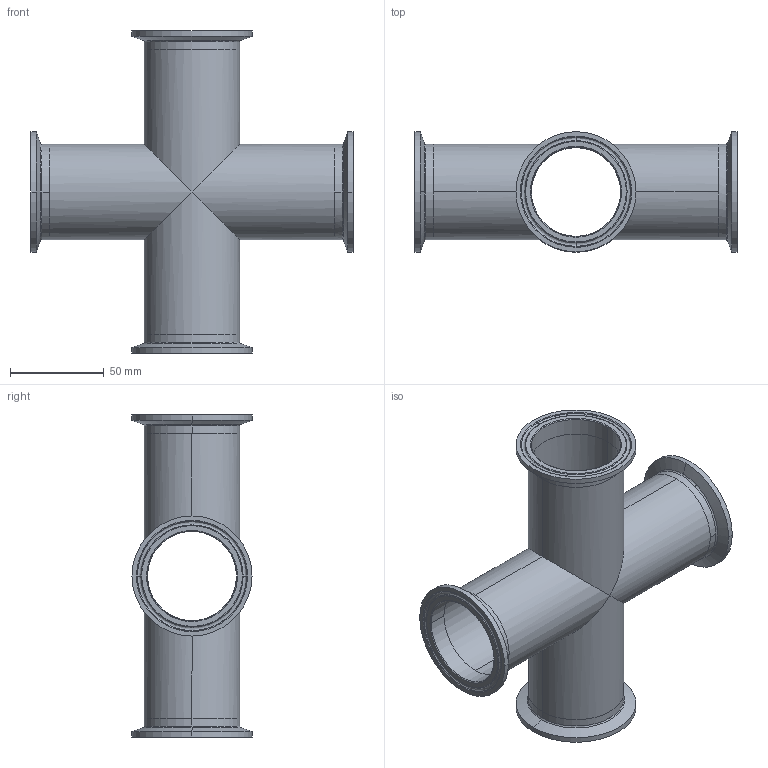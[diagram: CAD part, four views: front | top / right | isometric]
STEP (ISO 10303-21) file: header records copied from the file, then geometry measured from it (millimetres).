
FILE_DESCRIPTION (( 'STEP AP214' ), '1' );
FILE_NAME ('TEG96L2.0-...STEP', '2016-05-22T05:39:32', ( 'eran' ), ( '' ), 'SwSTEP 2.0', 'SolidWorks 2016', '' );
FILE_SCHEMA (( 'AUTOMOTIVE_DESIGN' ));
Length unit declared in the file: millimetre
Products named in the file (1): TEG96L2.0-..
Bounding box: 171.45 x 63.91 x 171.45 mm (x, y, z)
Volume: 89408.1 mm3; surface area: 98481.2 mm2
Topology: 5 solids, 5 shells, 120 faces, 304 edges, 196 vertices
Faces by surface type: cylinder 40, bspline 40, cone 24, plane 16
Entity records: 6434 total; most frequent: CARTESIAN_POINT 3509, DIRECTION 626, ORIENTED_EDGE 608, EDGE_CURVE 304, AXIS2_PLACEMENT_3D 281, CIRCLE 200, VERTEX_POINT 196, EDGE_LOOP 136
